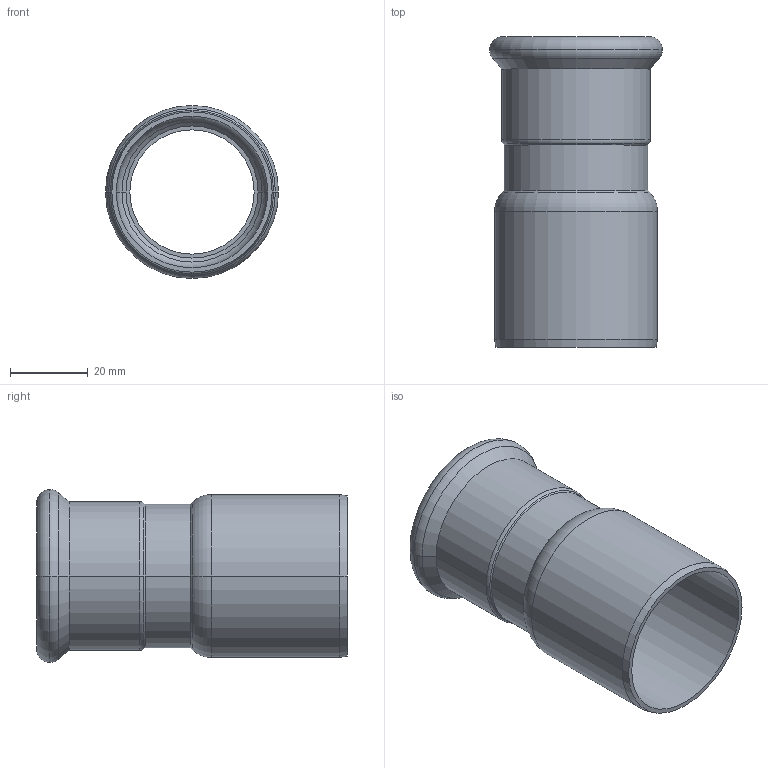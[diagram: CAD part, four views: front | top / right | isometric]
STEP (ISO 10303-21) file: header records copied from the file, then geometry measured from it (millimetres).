
FILE_DESCRIPTION(('CoCreate Modeling STEP Export'),'2;1');
FILE_NAME('C1407 35x42.stp','2014-11-07T16:34:59',(''),(''),'CoCreate Modeling STEP processor for AP214 (Solid Model)','CoCreate Modeling 17.00A 17-Jun-2010 (C) Parametric Technology GmbH','');
FILE_SCHEMA(('AUTOMOTIVE_DESIGN { 1 0 10303 214 1 1 1 1 }'));
Length unit declared in the file: millimetre
Products named in the file (2): C1407_35x42
Assembly tree (1 placements, depth 2):
  C1407_35x42
    C1407_35x42
Bounding box: 44.55 x 80 x 44.55 mm (x, y, z)
Volume: 17316.3 mm3; surface area: 20510.4 mm2
Topology: 1 solids, 1 shells, 38 faces, 76 edges, 42 vertices
Faces by surface type: cylinder 14, cone 10, torus 10, plane 4
Entity records: 838 total; most frequent: ORIENTED_EDGE 152, DIRECTION 130, CARTESIAN_POINT 119, EDGE_CURVE 76, AXIS2_PLACEMENT_3D 53, VERTEX_POINT 42, EDGE_LOOP 42, FACE_OUTER_BOUND 38
